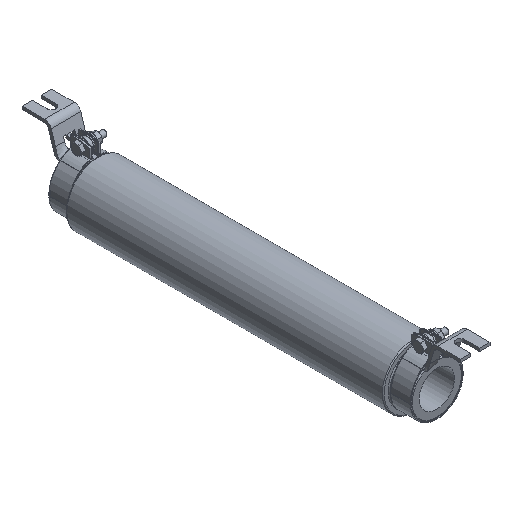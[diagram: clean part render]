
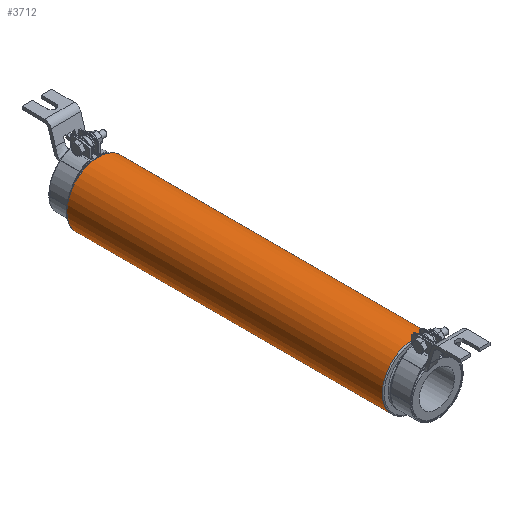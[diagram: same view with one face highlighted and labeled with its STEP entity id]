
A CAD part, isometric view. The second image highlights one B-rep face of the part: STEP entity #3712.
In plain terms, the highlighted cylindrical face has radius 32 mm (diameter 64 mm), a full revolution.
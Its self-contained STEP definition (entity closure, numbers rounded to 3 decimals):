
#328=CIRCLE('',#4323,32.);
#329=CIRCLE('',#4324,32.);
#449=CYLINDRICAL_SURFACE('',#4322,32.);
#735=ORIENTED_EDGE('',*,*,#1697,.T.);
#736=ORIENTED_EDGE('',*,*,#1698,.T.);
#1697=EDGE_CURVE('',#2201,#2201,#328,.T.);
#1698=EDGE_CURVE('',#2202,#2202,#329,.T.);
#2201=VERTEX_POINT('',#6592);
#2202=VERTEX_POINT('',#6594);
#3098=EDGE_LOOP('',(#735));
#3099=EDGE_LOOP('',(#736));
#3347=FACE_BOUND('',#3098,.T.);
#3348=FACE_BOUND('',#3099,.T.);
#3712=ADVANCED_FACE('',(#3347,#3348),#449,.T.);
#4322=AXIS2_PLACEMENT_3D('',#6590,#4874,#4875);
#4323=AXIS2_PLACEMENT_3D('',#6591,#4876,#4877);
#4324=AXIS2_PLACEMENT_3D('',#6593,#4878,#4879);
#4874=DIRECTION('',(0.,-1.,0.));
#4875=DIRECTION('',(0.,0.,-1.));
#4876=DIRECTION('',(0.,-1.,0.));
#4877=DIRECTION('',(0.,0.,-1.));
#4878=DIRECTION('',(0.,1.,0.));
#4879=DIRECTION('',(0.,0.,1.));
#6590=CARTESIAN_POINT('',(0.,-60.,0.));
#6591=CARTESIAN_POINT('',(0.,160.,0.));
#6592=CARTESIAN_POINT('',(0.,160.,-32.));
#6593=CARTESIAN_POINT('',(0.,-160.,0.));
#6594=CARTESIAN_POINT('',(0.,-160.,32.));
